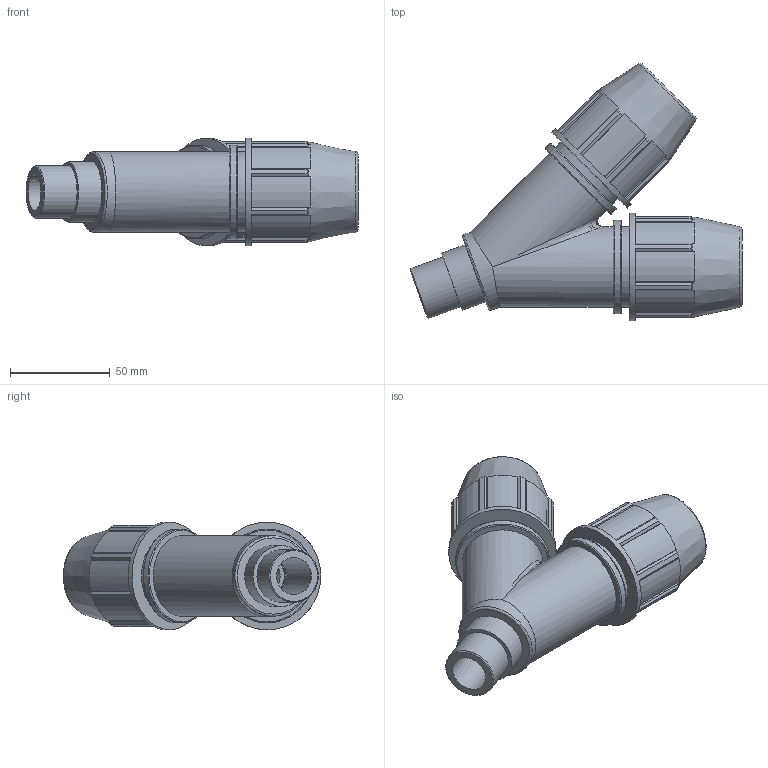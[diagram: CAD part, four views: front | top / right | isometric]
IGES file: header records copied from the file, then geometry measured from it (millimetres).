
Global section: file name: 0755M0007007.ipt; native system: Autodesk Inventor 2019; preprocessor: unknown; author: KIM; date: 20210826.124836; units: inch
Bounding box: 166.31 x 129.02 x 53.85 mm (x, y, z)
Volume: 286802.7 mm3; surface area: 61235.7 mm2
Topology: 1 solids, 1 shells, 174 faces, 463 edges, 304 vertices
Faces by surface type: plane 101, cylinder 29, revolution 24, cone 19, bspline 1
Full cylindrical faces by diameter (mm): 26.441 x1, 30.407 x1, 40.386 x5, 46.848 x2, 53.848 x2
